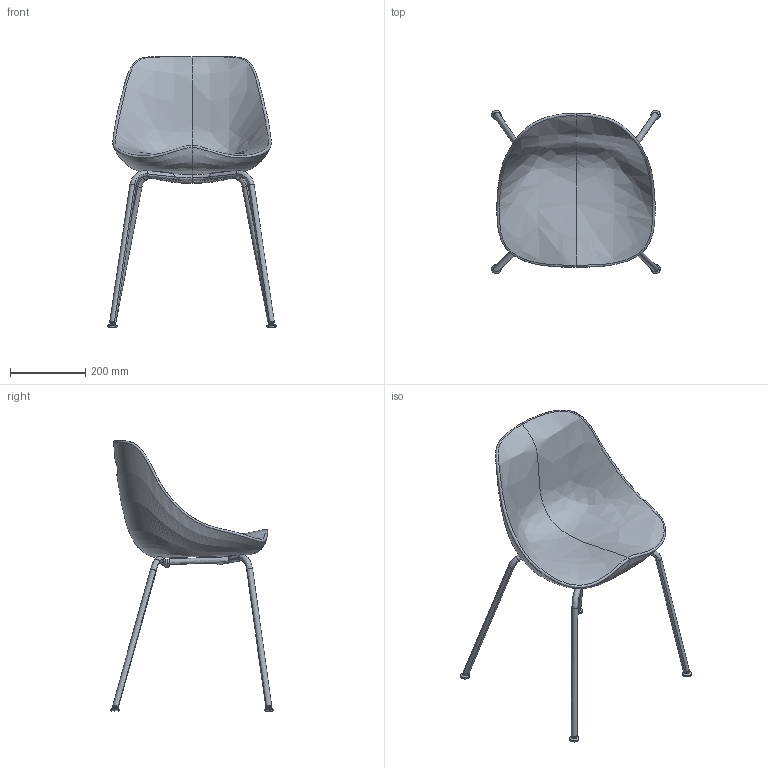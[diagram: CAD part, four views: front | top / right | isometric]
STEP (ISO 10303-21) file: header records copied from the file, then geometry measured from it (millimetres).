
FILE_DESCRIPTION(/* description */ (''),/* implementation_level */ '2;1');
FILE_NAME(/* name */ 'KINOSH~2',/* time_stamp */ '2025-06-30T17:55:54+09:00',/* author */ (''),/* organization */ (''),/* preprocessor_version */ 'ST-DEVELOPER v16.5',/* originating_system */ '',/* authorisation */ '');
FILE_SCHEMA (('AUTOMOTIVE_DESIGN'));
Length unit declared in the file: millimetre
Products named in the file (1): Document
Bounding box: 447.22 x 433.98 x 717.88 mm (x, y, z)
Volume: 9196787.1 mm3; surface area: 684000 mm2
Topology: 2 solids, 6 shells, 344 faces, 824 edges, 494 vertices
Faces by surface type: bspline 224, plane 120
Entity records: 158485 total; most frequent: CARTESIAN_POINT 153748, ORIENTED_EDGE 1624, EDGE_CURVE 816, VERTEX_POINT 494, EDGE_LOOP 380, ADVANCED_FACE 344, FACE_OUTER_BOUND 344, B_SPLINE_CURVE_WITH_KNOTS 277
